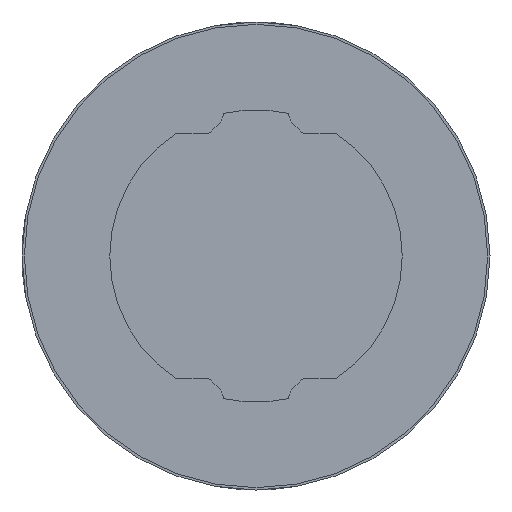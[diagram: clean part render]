
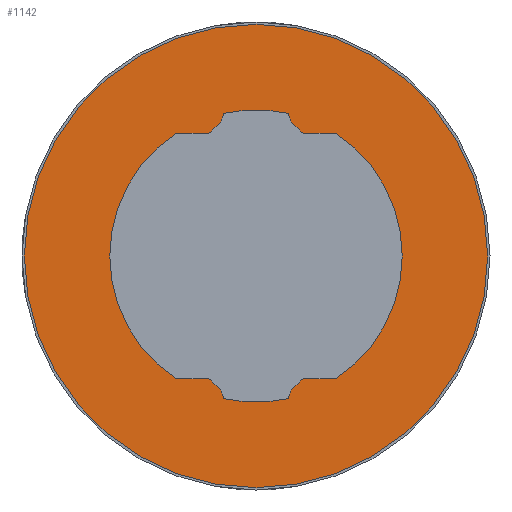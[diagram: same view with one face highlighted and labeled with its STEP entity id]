
A CAD part, left-side view. The second image highlights one B-rep face of the part: STEP entity #1142.
In plain terms, the highlighted planar face has unit normal (-1, 0, 0).
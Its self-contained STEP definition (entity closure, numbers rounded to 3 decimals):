
#46=PLANE('',#1265);
#101=LINE('',#1872,#189);
#102=LINE('',#1876,#190);
#103=LINE('',#1880,#191);
#104=LINE('',#1884,#192);
#105=LINE('',#1896,#193);
#106=LINE('',#1900,#194);
#107=LINE('',#1904,#195);
#108=LINE('',#1908,#196);
#189=VECTOR('',#1518,1000.);
#190=VECTOR('',#1521,1000.);
#191=VECTOR('',#1524,1000.);
#192=VECTOR('',#1527,1000.);
#193=VECTOR('',#1538,1000.);
#194=VECTOR('',#1541,1000.);
#195=VECTOR('',#1544,1000.);
#196=VECTOR('',#1547,1000.);
#381=ORIENTED_EDGE('',*,*,#641,.F.);
#382=ORIENTED_EDGE('',*,*,#642,.F.);
#383=ORIENTED_EDGE('',*,*,#643,.T.);
#384=ORIENTED_EDGE('',*,*,#644,.F.);
#385=ORIENTED_EDGE('',*,*,#645,.T.);
#386=ORIENTED_EDGE('',*,*,#646,.F.);
#387=ORIENTED_EDGE('',*,*,#647,.F.);
#388=ORIENTED_EDGE('',*,*,#648,.T.);
#389=ORIENTED_EDGE('',*,*,#649,.F.);
#390=ORIENTED_EDGE('',*,*,#650,.F.);
#391=ORIENTED_EDGE('',*,*,#651,.F.);
#392=ORIENTED_EDGE('',*,*,#652,.T.);
#393=ORIENTED_EDGE('',*,*,#653,.F.);
#394=ORIENTED_EDGE('',*,*,#654,.F.);
#395=ORIENTED_EDGE('',*,*,#655,.T.);
#396=ORIENTED_EDGE('',*,*,#656,.F.);
#397=ORIENTED_EDGE('',*,*,#657,.T.);
#398=ORIENTED_EDGE('',*,*,#658,.F.);
#399=ORIENTED_EDGE('',*,*,#659,.F.);
#400=ORIENTED_EDGE('',*,*,#660,.T.);
#401=ORIENTED_EDGE('',*,*,#661,.F.);
#402=ORIENTED_EDGE('',*,*,#662,.F.);
#403=ORIENTED_EDGE('',*,*,#663,.F.);
#404=ORIENTED_EDGE('',*,*,#664,.T.);
#405=ORIENTED_EDGE('',*,*,#665,.F.);
#641=EDGE_CURVE('',#783,#783,#881,.T.);
#642=EDGE_CURVE('',#784,#785,#882,.F.);
#643=EDGE_CURVE('',#784,#786,#883,.F.);
#644=EDGE_CURVE('',#787,#786,#884,.F.);
#645=EDGE_CURVE('',#787,#788,#885,.F.);
#646=EDGE_CURVE('',#789,#788,#886,.F.);
#647=EDGE_CURVE('',#790,#789,#101,.T.);
#648=EDGE_CURVE('',#790,#791,#887,.F.);
#649=EDGE_CURVE('',#792,#791,#102,.T.);
#650=EDGE_CURVE('',#793,#792,#888,.F.);
#651=EDGE_CURVE('',#794,#793,#103,.T.);
#652=EDGE_CURVE('',#794,#795,#889,.F.);
#653=EDGE_CURVE('',#796,#795,#104,.T.);
#654=EDGE_CURVE('',#797,#796,#890,.F.);
#655=EDGE_CURVE('',#797,#798,#891,.F.);
#656=EDGE_CURVE('',#799,#798,#892,.F.);
#657=EDGE_CURVE('',#799,#800,#893,.F.);
#658=EDGE_CURVE('',#801,#800,#894,.F.);
#659=EDGE_CURVE('',#802,#801,#105,.T.);
#660=EDGE_CURVE('',#802,#803,#895,.F.);
#661=EDGE_CURVE('',#804,#803,#106,.T.);
#662=EDGE_CURVE('',#805,#804,#896,.F.);
#663=EDGE_CURVE('',#806,#805,#107,.T.);
#664=EDGE_CURVE('',#806,#807,#897,.F.);
#665=EDGE_CURVE('',#785,#807,#108,.T.);
#783=VERTEX_POINT('',#1860);
#784=VERTEX_POINT('',#1862);
#785=VERTEX_POINT('',#1863);
#786=VERTEX_POINT('',#1865);
#787=VERTEX_POINT('',#1867);
#788=VERTEX_POINT('',#1869);
#789=VERTEX_POINT('',#1871);
#790=VERTEX_POINT('',#1873);
#791=VERTEX_POINT('',#1875);
#792=VERTEX_POINT('',#1877);
#793=VERTEX_POINT('',#1879);
#794=VERTEX_POINT('',#1881);
#795=VERTEX_POINT('',#1883);
#796=VERTEX_POINT('',#1885);
#797=VERTEX_POINT('',#1887);
#798=VERTEX_POINT('',#1889);
#799=VERTEX_POINT('',#1891);
#800=VERTEX_POINT('',#1893);
#801=VERTEX_POINT('',#1895);
#802=VERTEX_POINT('',#1897);
#803=VERTEX_POINT('',#1899);
#804=VERTEX_POINT('',#1901);
#805=VERTEX_POINT('',#1903);
#806=VERTEX_POINT('',#1905);
#807=VERTEX_POINT('',#1907);
#881=CIRCLE('',#1266,19.8);
#882=CIRCLE('',#1267,0.3);
#883=CIRCLE('',#1268,1.75);
#884=CIRCLE('',#1269,12.5);
#885=CIRCLE('',#1270,1.75);
#886=CIRCLE('',#1271,0.3);
#887=CIRCLE('',#1272,0.3);
#888=CIRCLE('',#1273,12.5);
#889=CIRCLE('',#1274,0.3);
#890=CIRCLE('',#1275,0.3);
#891=CIRCLE('',#1276,1.75);
#892=CIRCLE('',#1277,12.5);
#893=CIRCLE('',#1278,1.75);
#894=CIRCLE('',#1279,0.3);
#895=CIRCLE('',#1280,0.3);
#896=CIRCLE('',#1281,12.5);
#897=CIRCLE('',#1282,0.3);
#947=EDGE_LOOP('',(#381));
#948=EDGE_LOOP('',(#382,#383,#384,#385,#386,#387,#388,#389,#390,#391,#392,
#393,#394,#395,#396,#397,#398,#399,#400,#401,#402,#403,#404,#405));
#1025=FACE_BOUND('',#947,.T.);
#1026=FACE_BOUND('',#948,.T.);
#1142=ADVANCED_FACE('',(#1025,#1026),#46,.F.);
#1265=AXIS2_PLACEMENT_3D('',#1858,#1504,#1505);
#1266=AXIS2_PLACEMENT_3D('',#1859,#1506,#1507);
#1267=AXIS2_PLACEMENT_3D('',#1861,#1508,#1509);
#1268=AXIS2_PLACEMENT_3D('',#1864,#1510,#1511);
#1269=AXIS2_PLACEMENT_3D('',#1866,#1512,#1513);
#1270=AXIS2_PLACEMENT_3D('',#1868,#1514,#1515);
#1271=AXIS2_PLACEMENT_3D('',#1870,#1516,#1517);
#1272=AXIS2_PLACEMENT_3D('',#1874,#1519,#1520);
#1273=AXIS2_PLACEMENT_3D('',#1878,#1522,#1523);
#1274=AXIS2_PLACEMENT_3D('',#1882,#1525,#1526);
#1275=AXIS2_PLACEMENT_3D('',#1886,#1528,#1529);
#1276=AXIS2_PLACEMENT_3D('',#1888,#1530,#1531);
#1277=AXIS2_PLACEMENT_3D('',#1890,#1532,#1533);
#1278=AXIS2_PLACEMENT_3D('',#1892,#1534,#1535);
#1279=AXIS2_PLACEMENT_3D('',#1894,#1536,#1537);
#1280=AXIS2_PLACEMENT_3D('',#1898,#1539,#1540);
#1281=AXIS2_PLACEMENT_3D('',#1902,#1542,#1543);
#1282=AXIS2_PLACEMENT_3D('',#1906,#1545,#1546);
#1504=DIRECTION('',(1.,0.,0.));
#1505=DIRECTION('',(0.,0.,-1.));
#1506=DIRECTION('',(1.,0.,0.));
#1507=DIRECTION('',(0.,0.,-1.));
#1508=DIRECTION('',(1.,0.,0.));
#1509=DIRECTION('',(0.,0.,-1.));
#1510=DIRECTION('',(1.,0.,0.));
#1511=DIRECTION('',(0.,0.,-1.));
#1512=DIRECTION('',(1.,0.,0.));
#1513=DIRECTION('',(0.,0.,-1.));
#1514=DIRECTION('',(1.,0.,0.));
#1515=DIRECTION('',(0.,0.,-1.));
#1516=DIRECTION('',(1.,0.,0.));
#1517=DIRECTION('',(0.,0.,-1.));
#1518=DIRECTION('',(0.,0.5,0.866));
#1519=DIRECTION('',(1.,0.,0.));
#1520=DIRECTION('',(0.,0.,-1.));
#1521=DIRECTION('',(0.,1.,0.));
#1522=DIRECTION('',(1.,0.,0.));
#1523=DIRECTION('',(0.,0.,-1.));
#1524=DIRECTION('',(0.,-1.,0.));
#1525=DIRECTION('',(1.,0.,0.));
#1526=DIRECTION('',(0.,0.,-1.));
#1527=DIRECTION('',(0.,-0.5,0.866));
#1528=DIRECTION('',(1.,0.,0.));
#1529=DIRECTION('',(0.,0.,-1.));
#1530=DIRECTION('',(1.,0.,0.));
#1531=DIRECTION('',(0.,0.,-1.));
#1532=DIRECTION('',(1.,0.,0.));
#1533=DIRECTION('',(0.,0.,-1.));
#1534=DIRECTION('',(1.,0.,0.));
#1535=DIRECTION('',(0.,0.,-1.));
#1536=DIRECTION('',(1.,0.,0.));
#1537=DIRECTION('',(0.,0.,-1.));
#1538=DIRECTION('',(0.,-0.5,-0.866));
#1539=DIRECTION('',(1.,0.,0.));
#1540=DIRECTION('',(0.,0.,-1.));
#1541=DIRECTION('',(0.,-1.,0.));
#1542=DIRECTION('',(1.,0.,0.));
#1543=DIRECTION('',(0.,0.,-1.));
#1544=DIRECTION('',(0.,1.,0.));
#1545=DIRECTION('',(1.,0.,0.));
#1546=DIRECTION('',(0.,0.,-1.));
#1547=DIRECTION('',(0.,0.5,-0.866));
#1858=CARTESIAN_POINT('',(-33.5,0.,0.));
#1859=CARTESIAN_POINT('',(-33.5,0.,0.));
#1860=CARTESIAN_POINT('',(-33.5,0.,-19.8));
#1861=CARTESIAN_POINT('',(-33.5,3.47,10.64));
#1862=CARTESIAN_POINT('',(-33.5,3.623,10.898));
#1863=CARTESIAN_POINT('',(-33.5,3.73,10.79));
#1864=CARTESIAN_POINT('',(-33.5,4.515,12.404));
#1865=CARTESIAN_POINT('',(-33.5,2.778,12.187));
#1866=CARTESIAN_POINT('',(-33.5,0.,0.));
#1867=CARTESIAN_POINT('',(-33.5,-2.778,12.187));
#1868=CARTESIAN_POINT('',(-33.5,-4.515,12.404));
#1869=CARTESIAN_POINT('',(-33.5,-3.623,10.898));
#1870=CARTESIAN_POINT('',(-33.5,-3.47,10.64));
#1871=CARTESIAN_POINT('',(-33.5,-3.73,10.79));
#1872=CARTESIAN_POINT('',(-33.5,-7.47,4.313));
#1873=CARTESIAN_POINT('',(-33.5,-3.811,10.65));
#1874=CARTESIAN_POINT('',(-33.5,-4.071,10.8));
#1875=CARTESIAN_POINT('',(-33.5,-4.071,10.5));
#1876=CARTESIAN_POINT('',(-33.5,0.,10.5));
#1877=CARTESIAN_POINT('',(-33.5,-6.782,10.5));
#1878=CARTESIAN_POINT('',(-33.5,0.,0.));
#1879=CARTESIAN_POINT('',(-33.5,-6.782,-10.5));
#1880=CARTESIAN_POINT('',(-33.5,0.,-10.5));
#1881=CARTESIAN_POINT('',(-33.5,-4.071,-10.5));
#1882=CARTESIAN_POINT('',(-33.5,-4.071,-10.8));
#1883=CARTESIAN_POINT('',(-33.5,-3.811,-10.65));
#1884=CARTESIAN_POINT('',(-33.5,-7.47,-4.313));
#1885=CARTESIAN_POINT('',(-33.5,-3.73,-10.79));
#1886=CARTESIAN_POINT('',(-33.5,-3.47,-10.64));
#1887=CARTESIAN_POINT('',(-33.5,-3.623,-10.898));
#1888=CARTESIAN_POINT('',(-33.5,-4.515,-12.404));
#1889=CARTESIAN_POINT('',(-33.5,-2.778,-12.187));
#1890=CARTESIAN_POINT('',(-33.5,0.,0.));
#1891=CARTESIAN_POINT('',(-33.5,2.778,-12.187));
#1892=CARTESIAN_POINT('',(-33.5,4.515,-12.404));
#1893=CARTESIAN_POINT('',(-33.5,3.623,-10.898));
#1894=CARTESIAN_POINT('',(-33.5,3.47,-10.64));
#1895=CARTESIAN_POINT('',(-33.5,3.73,-10.79));
#1896=CARTESIAN_POINT('',(-33.5,7.47,-4.313));
#1897=CARTESIAN_POINT('',(-33.5,3.811,-10.65));
#1898=CARTESIAN_POINT('',(-33.5,4.071,-10.8));
#1899=CARTESIAN_POINT('',(-33.5,4.071,-10.5));
#1900=CARTESIAN_POINT('',(-33.5,0.,-10.5));
#1901=CARTESIAN_POINT('',(-33.5,6.782,-10.5));
#1902=CARTESIAN_POINT('',(-33.5,0.,0.));
#1903=CARTESIAN_POINT('',(-33.5,6.782,10.5));
#1904=CARTESIAN_POINT('',(-33.5,0.,10.5));
#1905=CARTESIAN_POINT('',(-33.5,4.071,10.5));
#1906=CARTESIAN_POINT('',(-33.5,4.071,10.8));
#1907=CARTESIAN_POINT('',(-33.5,3.811,10.65));
#1908=CARTESIAN_POINT('',(-33.5,7.47,4.313));
